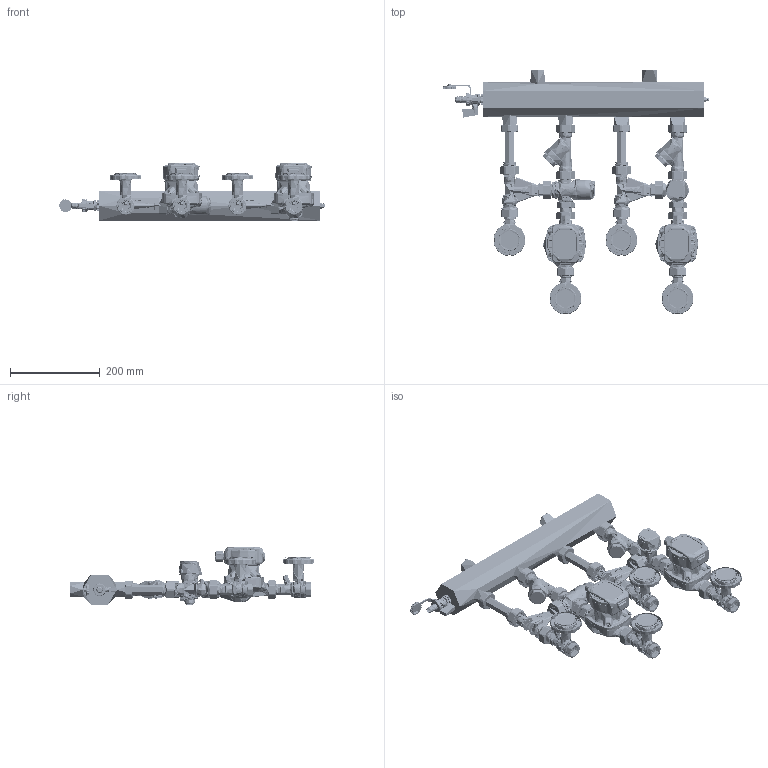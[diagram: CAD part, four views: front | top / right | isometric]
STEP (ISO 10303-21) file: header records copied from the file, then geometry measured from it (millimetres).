
FILE_DESCRIPTION (( 'STEP AP203' ), '1' );
FILE_NAME ('BPS_zestaw_mieszajacy_ze_sprzeglem_hydraulicznym_9096120_0_3D_AFRISO.STEP', '2024-11-22T13:16:01', ( '' ), ( '' ), 'SwSTEP 2.0', 'SolidWorks 2025', '' );
FILE_SCHEMA (( 'CONFIG_CONTROL_DESIGN' ));
Length unit declared in the file: millimetre
Products named in the file (70): GEWINDEDICHTRING G1_2; GEWINDERING G1_2; 05 01 001117_Verstellhebel DN20_DN25; Tubo-22; 05 01 001124_Geh_X_E4use 3-W ARV-Vario DN20 AG ; GRIFF; Dado-553-S-1-Lavorato-31505553_1; pokretlo na termometr; Guarnizione-840-34-ptfe-52705005_1; Anello-Elastico-1460-Ř28x2-53105460_2; Asta-840-12-Unificata-30505300; Anello-Elastico-553-S-1-53105253_Per assemblaggio_1; 42407; 10405027-1963-1DFx34F-Maniglia-Termometro-Nera_TERMOMETRO_1; Corpo-Filtro-Lavorato_2; 67081_1; O-ring-4125-PE32-52905023_2; 20405011-1963-34-GIALLO_ASSIEME; 70405017-1963-1DFx34F-GIALLO-MAN-NERA_ASSIEME; T_LLE; Assieme-Filtro1; 3404-Prolunga-1Fx1DF-Lavorata-L1605404_1; Dado-Fissaggio-Maniglia-1870-A-31505091; 67082_ATM361_1; Anello-Elastico-553-S-1-53105253; Raccordo-840-34-Lavorato-31605312_Sabbiata_1; 1961-S-Portasonda-_X2_0158_X0_6-Lavorato-30805032; SPINDEL; Misclatrice-Termostatica-ATM561-C-Lavoro-50105251_1; Raccordo-840-34-Lavorato-31605312_Sabbiata; 67079_1; MUTTER G3_4; odpowietrznik_reczny; Guarnizione-840-34-ptfe-52705005; M1605404-3404-1x1-Prolunga-Montata_1; Sfera-300-34-Lavorata-33208005_1; DECKEL0G304; Sfera-300-34-Lavorata-33208005; Tubo-22-1DFx1M; BPS_zestaw_mieszajacy_ze_sprzeglem_hydraulicznym_9096120_0_3D_AFRISO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
Assembly tree (89 placements, depth 6):
  BPS_zestaw_mieszajacy_ze_sprzeglem_hydraulicznym_9096120_0_3D_AFRISO
    Misclatrice-Termostatica-ATM561-C-Lavoro-50105251_1
      41181_1
      67082_ATM361_1
      21780_1
      67079_1
      67081_1
      MANOPOLA_1
    Assieme-Filtro1  x2
      Corpo-Filtro-Lavorato_2
      Anello-Elastico-1460-Ř28x2-53105460_2
      Dado-1460- 1-Lavorato-31505460_2
      3438-Tappo Filtro Lavorato_2
      Filtro-1410-114-53505410_2
      O-ring-4125-PE32-52905023_2
    42407
      KFE_HAHN G1_2 PTFE
        DECKEL0G304
          FLACHDICHTUNG
        SPINDEL
        GEWINDEDICHTRING G1_2
        GEWINDERING G1_2
        GRIFF
        T_LLE
        MUTTER G3_4
        GEH_USE
        HALTELASCHE
        DECKEL G3_4
    Assieme-Valvola-Tee-Check_ASSIEME_1  x2
      Corpo-Valvola-DN20-Lavorato_1
      Sfera-300-34-Lavorata-33208005_1
      Guarnizione-840-34-ptfe-52705005_1
      Raccordo-840-34-Lavorato-31605312_Sabbiata_1
      Dado-1460- 1-Lavorato-31505460_2
      Anello-Elastico-1460-Ř28x2-53105460_2
      Check-dn25-HT-con-alette_1
    M1605404-3404-1x1-Prolunga-Montata_1  x2
      3404-Prolunga-1Fx1DF-Lavorata-L1605404_1
      Anello-Elastico-553-S-1-53105253_Per assemblaggio_1
      Dado-553-S-1-Lavorato-31505553_1
    Pokrętło ARV
      ARV_nowa generacja (pokrętło)
      Sockel Mischerbet. _AFRISO-PL__2017-05-31
    10405027-1963-1DFx34F-Maniglia-Termometro-Nera_TERMOMETRO_1  x4
      70405017-1963-1DFx34F-GIALLO-MAN-NERA_ASSIEME
        90405017-1963-1DFx34F-GIALLO-MAN-NERA_ASSIEME
          20405011-1963-34-GIALLO_ASSIEME
            Corpo-1963-DN20-Lavorato-30105655
            Sfera-300-34-Lavorata-33208005
            Guarnizione-840-34-ptfe-52705005  x2
            Asta-840-12-Unificata-30505300
            O-ring-2018-EPDM 70 N01C  x2
            Raccordo-840-34-Lavorato-31605312_Sabbiata
          maniglia-1870-1871_Nera
          Dado-Fissaggio-Maniglia-1870-A-31505091
          Inserto-Maniglia-1870-52005071
          Grano-M4x6-52110003
          1961-S-Portasonda-_X2_0158_X0_6-Lavorato-30805032
        Anello-Elastico-553-S-1-53105253
        Dado-553-S-1-Lavorato-31505553
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Bounding box: 593.76 x 545.81 x 129.17 mm (x, y, z)
Topology: 158 solids, 240 shells, 24069 faces, 58865 edges, 35695 vertices
Faces by surface type: plane 6927, cylinder 5163, cone 4825, bspline 4553, torus 1923, sphere 678
Full cylindrical faces by diameter (mm): 25.5 x2, 29 x2
Entity records: 652531 total; most frequent: CARTESIAN_POINT 392693, ORIENTED_EDGE 58221, DIRECTION 44171, EDGE_CURVE 29125, VERTEX_POINT 17633, AXIS2_PLACEMENT_3D 17538, EDGE_LOOP 12617, FACE_OUTER_BOUND 12047
